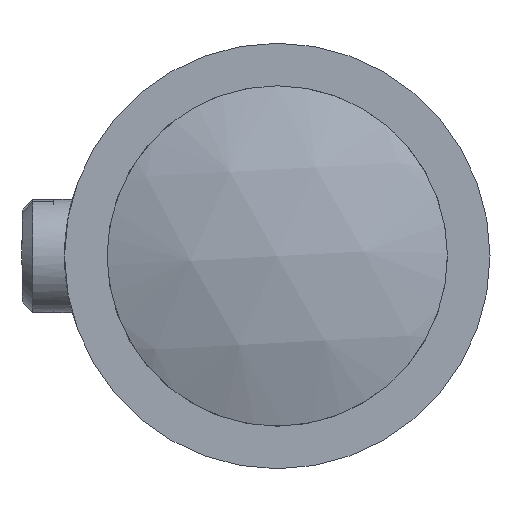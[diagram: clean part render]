
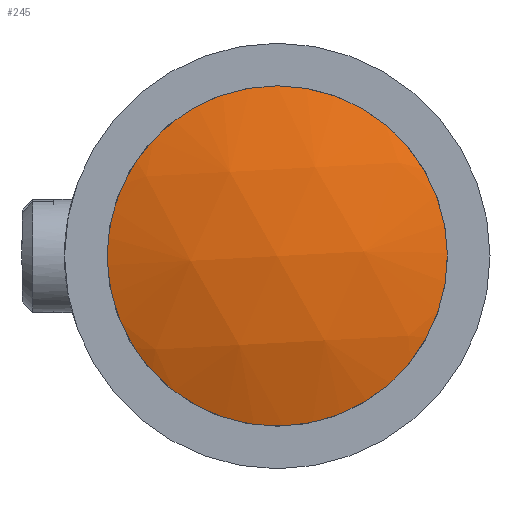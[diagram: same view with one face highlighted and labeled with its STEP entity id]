
A CAD part, left-side view. The second image highlights one B-rep face of the part: STEP entity #245.
In plain terms, the highlighted spherical face has radius 15.6 mm.
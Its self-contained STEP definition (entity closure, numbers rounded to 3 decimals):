
#222=CARTESIAN_POINT('',(1.5,5.991,-0.324));
#223=VERTEX_POINT('',#222);
#224=CARTESIAN_POINT('',(1.5,0.,0.0));
#225=DIRECTION('',(1.0,0.0,0.0));
#226=DIRECTION('',(0.0,0.0,1.0));
#227=AXIS2_PLACEMENT_3D('',#224,#225,#226);
#228=CIRCLE('',#227,6.);
#229=EDGE_CURVE('',#223,#223,#228,.T.);
#237=CARTESIAN_POINT('',(15.9,0.,0.));
#238=DIRECTION('',(0.,0.054,0.999));
#239=DIRECTION('',(1.0,0.0,0.0));
#240=AXIS2_PLACEMENT_3D('',#237,#238,#239);
#241=SPHERICAL_SURFACE('',#240,15.6);
#242=ORIENTED_EDGE('',*,*,#229,.F.);
#243=EDGE_LOOP('',(#242));
#244=FACE_OUTER_BOUND('',#243,.T.);
#245=ADVANCED_FACE('',(#244),#241,.T.);
